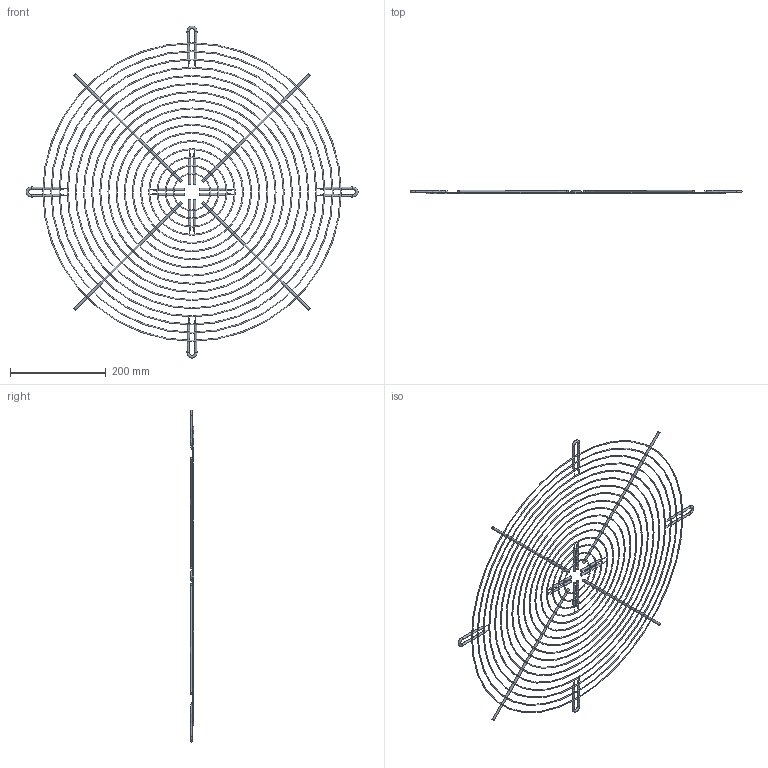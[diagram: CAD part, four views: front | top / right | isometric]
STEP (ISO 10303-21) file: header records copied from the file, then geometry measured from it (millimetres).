
FILE_DESCRIPTION(/* description */ (''),/* implementation_level */ '2;1');
FILE_NAME(/* name */ 'Z:\Output\SG_630-01243-002.stp',/* time_stamp */ '2020-05-12T16:23:04+02:00',/* author */ ('pareshmistry'),/* organization */ (''),/* preprocessor_version */ 'ST-DEVELOPER v17.2',/* originating_system */ 'Autodesk Inventor 2019',/* authorisation */ '');
FILE_SCHEMA (('AUTOMOTIVE_DESIGN { 1 0 10303 214 3 1 1 }'));
Length unit declared in the file: millimetre
Products named in the file (1): ASDSGD-1
Bounding box: 694.93 x 7 x 694.93 mm (x, y, z)
Volume: 136039.4 mm3; surface area: 179584 mm2
Topology: 25 solids, 25 shells, 49 faces, 226 edges, 193 vertices
Faces by surface type: torus 17, plane 16, bspline 12, cylinder 4
Full cylindrical faces by diameter (mm): 5 x4
Entity records: 2895 total; most frequent: CARTESIAN_POINT 853, ORIENTED_EDGE 452, DIRECTION 380, EDGE_CURVE 226, VERTEX_POINT 193, LINE 148, VECTOR 148, AXIS2_PLACEMENT_3D 116
